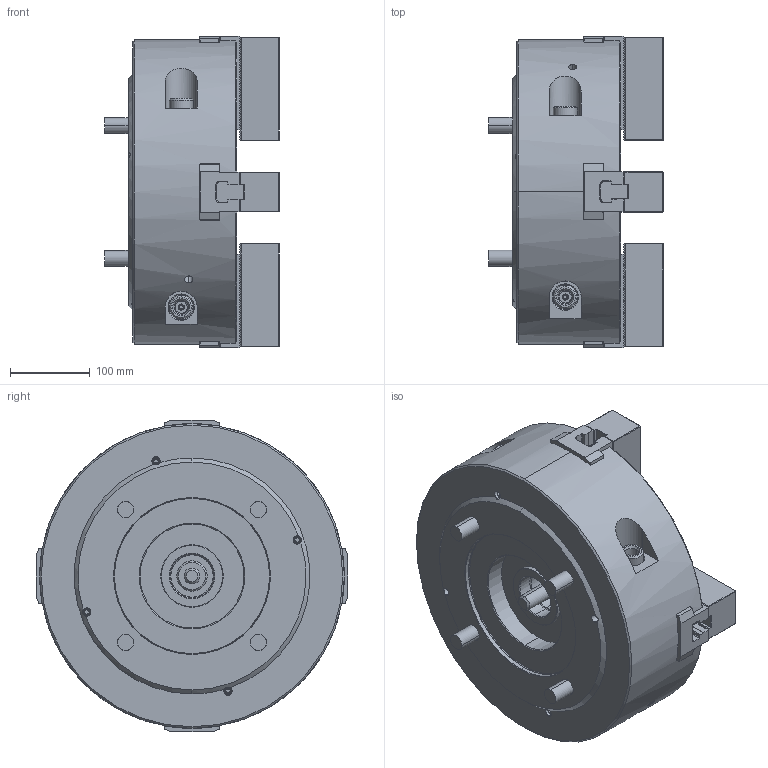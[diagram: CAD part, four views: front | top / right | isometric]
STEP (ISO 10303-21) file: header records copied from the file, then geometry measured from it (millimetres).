
FILE_DESCRIPTION (( 'STEP AP214' ), '1' );
FILE_NAME ('HW-15 61P2759881 ASSY_UC.STEP', '2023-10-13T02:09:10', ( '' ), ( '' ), 'SwSTEP 2.0', 'SolidWorks 2022', '' );
FILE_SCHEMA (( 'AUTOMOTIVE_DESIGN' ));
Length unit declared in the file: millimetre
Products named in the file (7): HW-15 61P2759881 ASSY_UC; 61P400795-6_T NUT_ﾃﾞﾌｫﾙﾄ; 61P323000-4_SOFT JAW_ﾃﾞﾌｫﾙﾄ; 61P335564-3_MASTER JAW 1-3_ﾃﾞﾌｫﾙﾄ; HW-15_BASE^61P275988-1_HW-15 ASSY_ﾃﾞﾌｫﾙﾄ; 61P335565-5_MASTER JAW 2-4_ﾃﾞﾌｫﾙﾄ; Bアナツキ M14×40_ﾃﾞﾌｫﾙﾄ
Assembly tree (21 placements, depth 2):
  HW-15 61P2759881 ASSY_UC
    61P335565-5_MASTER JAW 2-4_ﾃﾞﾌｫﾙﾄ  x2
    61P335564-3_MASTER JAW 1-3_ﾃﾞﾌｫﾙﾄ  x2
    HW-15_BASE^61P275988-1_HW-15 ASSY_ﾃﾞﾌｫﾙﾄ
    61P400795-6_T NUT_ﾃﾞﾌｫﾙﾄ  x4
    61P323000-4_SOFT JAW_ﾃﾞﾌｫﾙﾄ  x4
    Bアナツキ M14×40_ﾃﾞﾌｫﾙﾄ  x8
Bounding box: 218 x 389.78 x 389.78 mm (x, y, z)
Volume: 15970895.3 mm3; surface area: 1001488.5 mm2
Topology: 21 solids, 25 shells, 5346 faces, 15187 edges, 10010 vertices
Faces by surface type: plane 3692, cylinder 1313, cone 196, bspline 91, torus 54
Entity records: 87428 total; most frequent: CARTESIAN_POINT 21412, ORIENTED_EDGE 14456, DIRECTION 12538, EDGE_CURVE 7228, VECTOR 5458, LINE 5458, VERTEX_POINT 4748, AXIS2_PLACEMENT_3D 3540
